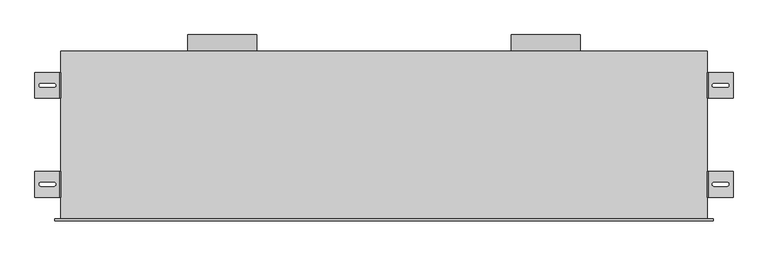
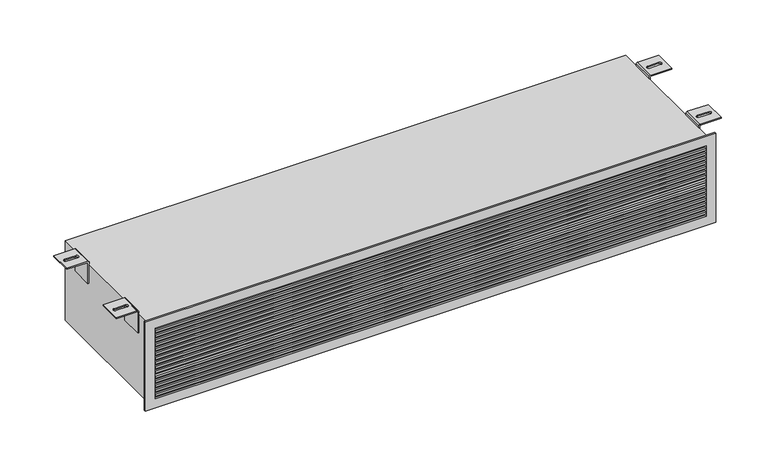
"""IFC4 building model written with IfcOpenShell, lengths in millimetres: air terminal geometry, EOL - Mural - 2 piquages : EOL-M2x160-1500x225-2."""

from ifc_helpers import new_model, si_unit, point, frame, frame_2d, origin, place, context, project, spatial, polyline, circle_curve, ellipse_curve, trimmed, segment, composite_curve, outline, extrude, source, transform, mapped, element, save
from ifc_brep_helpers import plane_surface, cylinder_surface, revolved_surface, extruded_surface, advanced_brep


def air_terminal_16d54a23(model_context):
    return source(origin(), model_context, "Body", "SolidModel", [
        advanced_brep(
        [(754.0013366, 110.0, 121.5), (810.0, 110.0, 121.5), (810.0, 110.0, 118.5), (754.0, 110.0, 118.5), (753.0, 110.0, 117.5), (753.0, 110.0, 58.5), (750.0, 110.0, 58.5), (750.0, 110.0, 117.4986634), (754.0013366, 50.0, 121.5), (750.0, 50.0, 117.4986634), (750.0, 50.0, 58.5), (753.0, 50.0, 58.5), (753.0, 50.0, 117.5), (754.0, 50.0, 118.5), (810.0, 50.0, 118.5), (810.0, 50.0, 121.5), (796.0287952, 75.4804328, 121.5), (766.0287952, 75.4804328, 121.5), (766.0287952, 84.4804328, 121.5), (796.0287952, 84.4804328, 121.5), (766.0287952, 75.4804328, 118.5), (796.0287952, 75.4804328, 118.5), (796.0287952, 84.4804328, 118.5), (766.0287952, 84.4804328, 118.5)],
        [
            (0, 1),
            (1, 2),
            (2, 3),
            (3, 4, circle_curve(frame((754.0, 110.0, 117.5), z_axis=(0.0, -1.0, 0.0), x_axis=(-1.0000000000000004, 0.0, 0.0)), 1.0)),
            (4, 5),
            (5, 6),
            (6, 7),
            (7, 0, circle_curve(frame((754.0013366, 110.0, 117.4986634), z_axis=(0.0, 1.0, 0.0), x_axis=(-1.0000000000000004, 0.0, 0.0)), 4.0013366)),
            (8, 9, circle_curve(frame((754.0013366, 50.0, 117.4986634), z_axis=(0.0, -1.0, 0.0), x_axis=(-1.0000000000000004, 0.0, 0.0)), 4.0013366)),
            (9, 10),
            (10, 11),
            (11, 12),
            (12, 13, circle_curve(frame((754.0, 50.0, 117.5), z_axis=(0.0, 1.0, 0.0), x_axis=(-1.0000000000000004, 0.0, 0.0)), 1.0)),
            (13, 14),
            (14, 15),
            (15, 8),
            (0, 8),
            (15, 1),
            (16, 17),
            (17, 18, circle_curve(frame((766.0287952, 79.9804328, 121.5), z_axis=(0.0, 0.0, -1.0), x_axis=(0.0, -1.0, 0.0)), 4.5)),
            (18, 19),
            (19, 16, circle_curve(frame((796.0287952, 79.9804328, 121.5), z_axis=(0.0, 0.0, -1.0), x_axis=(0.0, -1.0, 0.0)), 4.5)),
            (14, 2),
            (13, 3),
            (20, 21),
            (21, 22, ellipse_curve(frame((796.0287952, 79.9804328, 118.5), z_axis=(0.0, 0.0, 1.0), x_axis=(0.0, -1.0, 0.0)), 4.5, 4.5)),
            (22, 23),
            (23, 20, ellipse_curve(frame((766.0287952, 79.9804328, 118.5), z_axis=(0.0, 0.0, 1.0), x_axis=(0.0, -1.0, 0.0)), 4.5, 4.5)),
            (12, 4),
            (11, 5),
            (10, 6),
            (9, 7),
            (16, 21),
            (20, 17),
            (19, 22),
            (18, 23),
        ],
        [
            plane_surface(frame((810.0, 110.0, 121.5), z_axis=(0.0, 1.0, 0.0), x_axis=(1.0, 0.0, 0.0))),
            plane_surface(frame((810.0, 50.0, 121.5), z_axis=(0.0, -1.0, 0.0), x_axis=(-1.0, 0.0, 0.0))),
            plane_surface(frame((754.0013366, 110.0, 121.5), z_axis=(0.0, 0.0, 1.0), x_axis=(0.0, -1.0, 0.0))),
            plane_surface(frame((810.0, 110.0, 121.5), z_axis=(1.0, 0.0, 0.0), x_axis=(0.0, -1.0, 0.0))),
            plane_surface(frame((810.0, 110.0, 118.5), z_axis=(0.0, 0.0, -1.0), x_axis=(0.0, -1.0, 0.0))),
            revolved_surface(polyline([(753.0, 50.0, 117.5), (753.0, 110.00000000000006, 117.5)]), (754.0, 50.0, 117.5), (0.0, -1.0000000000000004, 0.0)),
            plane_surface(frame((753.0, 110.0, 117.5), z_axis=(1.0, 0.0, 0.0), x_axis=(0.0, -1.0, 0.0))),
            plane_surface(frame((753.0, 110.0, 58.5), z_axis=(0.0, 0.0, -1.0), x_axis=(0.0, -1.0, 0.0))),
            plane_surface(frame((750.0, 110.0, 58.5), z_axis=(-1.0, 0.0, 0.0), x_axis=(0.0, -1.0, 0.0))),
            cylinder_surface(frame((754.0013366, 50.0, 117.4986634), z_axis=(0.0, 1.0000000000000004, 0.0), x_axis=(-1.0000000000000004, 0.0, 0.0)), 4.0013366),
            plane_surface(frame((766.0287952, 75.4804328, 121.5), z_axis=(0.0, 1.0, 0.0), x_axis=(0.0, 0.0, -1.0))),
            extruded_surface(trimmed(ellipse_curve(frame((796.0287952, 79.9804328, 118.5), z_axis=(0.0, 0.0, 1.0), x_axis=(0.0, -1.0, 0.0)), 4.5, 4.5), [point((796.0287952, 75.4804328, 118.5))], [point((796.0287952, 84.4804328, 118.5))], True, "CARTESIAN"), (0.0, 0.0, -3.0), 3.0),
            plane_surface(frame((796.0287952, 84.4804328, 121.5), z_axis=(0.0, -1.0, 0.0), x_axis=(0.0, 0.0, -1.0))),
            extruded_surface(trimmed(ellipse_curve(frame((766.0287952, 79.9804328, 118.5), z_axis=(0.0, 0.0, 1.0), x_axis=(0.0, -1.0, 0.0)), 4.5, 4.5), [point((766.0287952, 84.4804328, 118.5))], [point((766.0287952, 75.4804328, 118.5))], True, "CARTESIAN"), (0.0, 0.0, -3.0), 3.0),
        ],
        [
            (0, [[1, 2, 3, 4, 5, 6, 7, 8]]),
            (1, [[9, 10, 11, 12, 13, 14, 15, 16]]),
            (2, [[-1, 17, -16, 18], [19, 20, 21, 22]]),
            (3, [[-2, -18, -15, 23]]),
            (4, [[-3, -23, -14, 24], [25, 26, 27, 28]]),
            (5, [[-4, -24, -13, 29]]),
            (6, [[-5, -29, -12, 30]]),
            (7, [[-6, -30, -11, 31]]),
            (8, [[-7, -31, -10, 32]]),
            (9, [[-8, -32, -9, -17]]),
            (10, [[33, -25, 34, -19]]),
            (11, [[-33, -22, 35, -26]]),
            (12, [[-35, -21, 36, -27]]),
            (13, [[-34, -28, -36, -20]]),
        ],
    ),
        advanced_brep(
        [(754.0013366, 340.0, 121.5), (810.0, 340.0, 121.5), (810.0, 340.0, 118.5), (754.0, 340.0, 118.5), (753.0, 340.0, 117.5), (753.0, 340.0, 58.5), (750.0, 340.0, 58.5), (750.0, 340.0, 117.4986634), (754.0013366, 280.0, 121.5), (750.0, 280.0, 117.4986634), (750.0, 280.0, 58.5), (753.0, 280.0, 58.5), (753.0, 280.0, 117.5), (754.0, 280.0, 118.5), (810.0, 280.0, 118.5), (810.0, 280.0, 121.5), (796.0287952, 305.4804328, 121.5), (766.0287952, 305.4804328, 121.5), (766.0287952, 314.4804328, 121.5), (796.0287952, 314.4804328, 121.5), (766.0287952, 305.4804328, 118.5), (796.0287952, 305.4804328, 118.5), (796.0287952, 314.4804328, 118.5), (766.0287952, 314.4804328, 118.5)],
        [
            (0, 1),
            (1, 2),
            (2, 3),
            (3, 4, circle_curve(frame((754.0, 340.0, 117.5), z_axis=(0.0, -1.0, 0.0), x_axis=(-1.0, 0.0, 0.0)), 1.0)),
            (4, 5),
            (5, 6),
            (6, 7),
            (7, 0, circle_curve(frame((754.0013366, 340.0, 117.4986634), z_axis=(0.0, 1.0, 0.0), x_axis=(-1.0, 0.0, 0.0)), 4.0013366)),
            (8, 9, circle_curve(frame((754.0013366, 280.0, 117.4986634), z_axis=(0.0, -1.0, 0.0), x_axis=(-1.0, 0.0, 0.0)), 4.0013366)),
            (9, 10),
            (10, 11),
            (11, 12),
            (12, 13, circle_curve(frame((754.0, 280.0, 117.5), z_axis=(0.0, 1.0, 0.0), x_axis=(-1.0, 0.0, 0.0)), 1.0)),
            (13, 14),
            (14, 15),
            (15, 8),
            (0, 8),
            (15, 1),
            (16, 17),
            (17, 18, circle_curve(frame((766.0287952, 309.9804328, 121.5), z_axis=(0.0, 0.0, -1.0), x_axis=(0.0, -1.0, 0.0)), 4.5)),
            (18, 19),
            (19, 16, circle_curve(frame((796.0287952, 309.9804328, 121.5), z_axis=(0.0, 0.0, -1.0), x_axis=(0.0, -1.0, 0.0)), 4.5)),
            (14, 2),
            (13, 3),
            (20, 21),
            (21, 22, ellipse_curve(frame((796.0287952, 309.9804328, 118.5), z_axis=(0.0, 0.0, 1.0), x_axis=(0.0, -1.0, 0.0)), 4.5, 4.5)),
            (22, 23),
            (23, 20, ellipse_curve(frame((766.0287952, 309.9804328, 118.5), z_axis=(0.0, 0.0, 1.0), x_axis=(0.0, -1.0, 0.0)), 4.5, 4.5)),
            (12, 4),
            (11, 5),
            (10, 6),
            (9, 7),
            (16, 21),
            (20, 17),
            (19, 22),
            (18, 23),
        ],
        [
            plane_surface(frame((810.0, 340.0, 121.5), z_axis=(0.0, 1.0, 0.0), x_axis=(1.0, 0.0, 0.0))),
            plane_surface(frame((810.0, 280.0, 121.5), z_axis=(0.0, -1.0, 0.0), x_axis=(-1.0, 0.0, 0.0))),
            plane_surface(frame((754.0013366, 340.0, 121.5), z_axis=(0.0, 0.0, 1.0), x_axis=(0.0, -1.0, 0.0))),
            plane_surface(frame((810.0, 340.0, 121.5), z_axis=(1.0, 0.0, 0.0), x_axis=(0.0, -1.0, 0.0))),
            plane_surface(frame((810.0, 340.0, 118.5), z_axis=(0.0, 0.0, -1.0), x_axis=(0.0, -1.0, 0.0))),
            revolved_surface(polyline([(753.0, 280.0, 117.5), (753.0, 340.0, 117.5)]), (754.0, 280.0, 117.5), (0.0, -1.0, 0.0)),
            plane_surface(frame((753.0, 340.0, 117.5), z_axis=(1.0, 0.0, 0.0), x_axis=(0.0, -1.0, 0.0))),
            plane_surface(frame((753.0, 340.0, 58.5), z_axis=(0.0, 0.0, -1.0), x_axis=(0.0, -1.0, 0.0))),
            plane_surface(frame((750.0, 340.0, 58.5), z_axis=(-1.0, 0.0, 0.0), x_axis=(0.0, -1.0, 0.0))),
            cylinder_surface(frame((754.0013366, 280.0, 117.4986634), z_axis=(0.0, 1.0, 0.0), x_axis=(-1.0, 0.0, 0.0)), 4.0013366),
            plane_surface(frame((766.0287952, 305.4804328, 121.5), z_axis=(0.0, 1.0, 0.0), x_axis=(0.0, 0.0, -1.0))),
            extruded_surface(trimmed(ellipse_curve(frame((796.0287952, 309.9804328, 118.5), z_axis=(0.0, 0.0, 1.0), x_axis=(0.0, -1.0, 0.0)), 4.5, 4.5), [point((796.0287952, 305.4804328, 118.5))], [point((796.0287952, 314.4804328, 118.5))], True, "CARTESIAN"), (0.0, 0.0, -3.0), 3.0),
            plane_surface(frame((796.0287952, 314.4804328, 121.5), z_axis=(0.0, -1.0, 0.0), x_axis=(0.0, 0.0, -1.0))),
            extruded_surface(trimmed(ellipse_curve(frame((766.0287952, 309.9804328, 118.5), z_axis=(0.0, 0.0, 1.0), x_axis=(0.0, -1.0, 0.0)), 4.5, 4.5), [point((766.0287952, 314.4804328, 118.5))], [point((766.0287952, 305.4804328, 118.5))], True, "CARTESIAN"), (0.0, 0.0, -3.0), 3.0),
        ],
        [
            (0, [[1, 2, 3, 4, 5, 6, 7, 8]]),
            (1, [[9, 10, 11, 12, 13, 14, 15, 16]]),
            (2, [[-1, 17, -16, 18], [19, 20, 21, 22]]),
            (3, [[-2, -18, -15, 23]]),
            (4, [[-3, -23, -14, 24], [25, 26, 27, 28]]),
            (5, [[-4, -24, -13, 29]]),
            (6, [[-5, -29, -12, 30]]),
            (7, [[-6, -30, -11, 31]]),
            (8, [[-7, -31, -10, 32]]),
            (9, [[-8, -32, -9, -17]]),
            (10, [[33, -25, 34, -19]]),
            (11, [[-33, -22, 35, -26]]),
            (12, [[-35, -21, 36, -27]]),
            (13, [[-34, -28, -36, -20]]),
        ],
    ),
        advanced_brep(
        [(-754.0013366, 50.0, 121.5), (-810.0, 50.0, 121.5), (-810.0, 50.0, 118.5), (-754.0, 50.0, 118.5), (-753.0, 50.0, 117.5), (-753.0, 50.0, 58.5), (-750.0, 50.0, 58.5), (-750.0, 50.0, 117.4986634), (-754.0013366, 110.0, 121.5), (-750.0, 110.0, 117.4986634), (-750.0, 110.0, 58.5), (-753.0, 110.0, 58.5), (-753.0, 110.0, 117.5), (-754.0, 110.0, 118.5), (-810.0, 110.0, 118.5), (-810.0, 110.0, 121.5), (-796.0287952, 84.5195672, 121.5), (-766.0287952, 84.5195672, 121.5), (-766.0287952, 75.5195672, 121.5), (-796.0287952, 75.5195672, 121.5), (-766.0287952, 84.5195672, 118.5), (-796.0287952, 84.5195672, 118.5), (-796.0287952, 75.5195672, 118.5), (-766.0287952, 75.5195672, 118.5)],
        [
            (0, 1),
            (1, 2),
            (2, 3),
            (3, 4, circle_curve(frame((-754.0, 50.0, 117.5), z_axis=(0.0, 1.0, 0.0), x_axis=(1.0, 0.0, 0.0)), 1.0)),
            (4, 5),
            (5, 6),
            (6, 7),
            (7, 0, circle_curve(frame((-754.0013366, 50.0, 117.4986634), z_axis=(0.0, -1.0, 0.0), x_axis=(1.0, 0.0, 0.0)), 4.0013366)),
            (8, 9, circle_curve(frame((-754.0013366, 110.0, 117.4986634), z_axis=(0.0, 1.0, 0.0), x_axis=(1.0, 0.0, 0.0)), 4.0013366)),
            (9, 10),
            (10, 11),
            (11, 12),
            (12, 13, circle_curve(frame((-754.0, 110.0, 117.5), z_axis=(0.0, -1.0, 0.0), x_axis=(1.0, 0.0, 0.0)), 1.0)),
            (13, 14),
            (14, 15),
            (15, 8),
            (0, 8),
            (15, 1),
            (16, 17),
            (17, 18, circle_curve(frame((-766.0287952, 80.0195672, 121.5), z_axis=(0.0, 0.0, -1.0), x_axis=(0.0, 1.0, 0.0)), 4.5)),
            (18, 19),
            (19, 16, circle_curve(frame((-796.0287952, 80.0195672, 121.5), z_axis=(0.0, 0.0, -1.0), x_axis=(0.0, 1.0, 0.0)), 4.5)),
            (14, 2),
            (13, 3),
            (20, 21),
            (21, 22, ellipse_curve(frame((-796.0287952, 80.0195672, 118.5), z_axis=(0.0, 0.0, 1.0), x_axis=(0.0, 1.0, 0.0)), 4.5, 4.5)),
            (22, 23),
            (23, 20, ellipse_curve(frame((-766.0287952, 80.0195672, 118.5), z_axis=(0.0, 0.0, 1.0), x_axis=(0.0, 1.0, 0.0)), 4.5, 4.5)),
            (12, 4),
            (11, 5),
            (10, 6),
            (9, 7),
            (16, 21),
            (20, 17),
            (19, 22),
            (18, 23),
        ],
        [
            plane_surface(frame((-810.0, 50.0, 121.5), z_axis=(0.0, -1.0, 0.0), x_axis=(-1.0, 0.0, 0.0))),
            plane_surface(frame((-810.0, 110.0, 121.5), z_axis=(0.0, 1.0, 0.0), x_axis=(1.0, 0.0, 0.0))),
            plane_surface(frame((-754.0013366, 50.0, 121.5), z_axis=(0.0, 0.0, 1.0), x_axis=(0.0, 1.0, 0.0))),
            plane_surface(frame((-810.0, 50.0, 121.5), z_axis=(-1.0, 0.0, 0.0), x_axis=(0.0, 1.0, 0.0))),
            plane_surface(frame((-810.0, 50.0, 118.5), z_axis=(0.0, 0.0, -1.0), x_axis=(0.0, 1.0, 0.0))),
            revolved_surface(polyline([(-753.0, 110.0, 117.5), (-753.0, 50.0, 117.5)]), (-754.0, 110.0, 117.5), (0.0, 1.0, 0.0)),
            plane_surface(frame((-753.0, 50.0, 117.5), z_axis=(-1.0, 0.0, 0.0), x_axis=(0.0, 1.0, 0.0))),
            plane_surface(frame((-753.0, 50.0, 58.5), z_axis=(0.0, 0.0, -1.0), x_axis=(0.0, 1.0, 0.0))),
            plane_surface(frame((-750.0, 50.0, 58.5), z_axis=(1.0, 0.0, 0.0), x_axis=(0.0, 1.0, 0.0))),
            cylinder_surface(frame((-754.0013366, 110.0, 117.4986634), z_axis=(0.0, -1.0, 0.0), x_axis=(1.0, 0.0, 0.0)), 4.0013366),
            plane_surface(frame((-766.0287952, 84.5195672, 121.5), z_axis=(0.0, -1.0, 0.0), x_axis=(0.0, 0.0, -1.0))),
            extruded_surface(trimmed(ellipse_curve(frame((-796.0287952, 80.0195672, 118.5), z_axis=(0.0, 0.0, 1.0), x_axis=(0.0, 1.0, 0.0)), 4.5, 4.5), [point((-796.0287952, 84.5195672, 118.5))], [point((-796.0287952, 75.5195672, 118.5))], True, "CARTESIAN"), (0.0, 0.0, -3.0), 3.0),
            plane_surface(frame((-796.0287952, 75.5195672, 121.5), z_axis=(0.0, 1.0, 0.0), x_axis=(0.0, 0.0, -1.0))),
            extruded_surface(trimmed(ellipse_curve(frame((-766.0287952, 80.0195672, 118.5), z_axis=(0.0, 0.0, 1.0), x_axis=(0.0, 1.0, 0.0)), 4.5, 4.5), [point((-766.0287952, 75.5195672, 118.5))], [point((-766.0287952, 84.5195672, 118.5))], True, "CARTESIAN"), (0.0, 0.0, -3.0), 3.0),
        ],
        [
            (0, [[1, 2, 3, 4, 5, 6, 7, 8]]),
            (1, [[9, 10, 11, 12, 13, 14, 15, 16]]),
            (2, [[-1, 17, -16, 18], [19, 20, 21, 22]]),
            (3, [[-2, -18, -15, 23]]),
            (4, [[-3, -23, -14, 24], [25, 26, 27, 28]]),
            (5, [[-4, -24, -13, 29]]),
            (6, [[-5, -29, -12, 30]]),
            (7, [[-6, -30, -11, 31]]),
            (8, [[-7, -31, -10, 32]]),
            (9, [[-8, -32, -9, -17]]),
            (10, [[33, -25, 34, -19]]),
            (11, [[-33, -22, 35, -26]]),
            (12, [[-35, -21, 36, -27]]),
            (13, [[-34, -28, -36, -20]]),
        ],
    ),
        advanced_brep(
        [(-754.0013366, 280.0, 121.5), (-810.0, 280.0, 121.5), (-810.0, 280.0, 118.5), (-754.0, 280.0, 118.5), (-753.0, 280.0, 117.5), (-753.0, 280.0, 58.5), (-750.0, 280.0, 58.5), (-750.0, 280.0, 117.4986634), (-754.0013366, 340.0, 121.5), (-750.0, 340.0, 117.4986634), (-750.0, 340.0, 58.5), (-753.0, 340.0, 58.5), (-753.0, 340.0, 117.5), (-754.0, 340.0, 118.5), (-810.0, 340.0, 118.5), (-810.0, 340.0, 121.5), (-796.0287952, 314.5195672, 121.5), (-766.0287952, 314.5195672, 121.5), (-766.0287952, 305.5195672, 121.5), (-796.0287952, 305.5195672, 121.5), (-766.0287952, 314.5195672, 118.5), (-796.0287952, 314.5195672, 118.5), (-796.0287952, 305.5195672, 118.5), (-766.0287952, 305.5195672, 118.5)],
        [
            (0, 1),
            (1, 2),
            (2, 3),
            (3, 4, circle_curve(frame((-754.0, 280.0, 117.5), z_axis=(0.0, 1.0, 0.0), x_axis=(1.0, 0.0, 0.0)), 1.0)),
            (4, 5),
            (5, 6),
            (6, 7),
            (7, 0, circle_curve(frame((-754.0013366, 280.0, 117.4986634), z_axis=(0.0, -1.0, 0.0), x_axis=(1.0, 0.0, 0.0)), 4.0013366)),
            (8, 9, circle_curve(frame((-754.0013366, 340.0, 117.4986634), z_axis=(0.0, 1.0, 0.0), x_axis=(1.0, 0.0, 0.0)), 4.0013366)),
            (9, 10),
            (10, 11),
            (11, 12),
            (12, 13, circle_curve(frame((-754.0, 340.0, 117.5), z_axis=(0.0, -1.0, 0.0), x_axis=(1.0, 0.0, 0.0)), 1.0)),
            (13, 14),
            (14, 15),
            (15, 8),
            (0, 8),
            (15, 1),
            (16, 17),
            (17, 18, circle_curve(frame((-766.0287952, 310.0195672, 121.5), z_axis=(0.0, 0.0, -1.0), x_axis=(0.0, 1.0, 0.0)), 4.5)),
            (18, 19),
            (19, 16, circle_curve(frame((-796.0287952, 310.0195672, 121.5), z_axis=(0.0, 0.0, -1.0), x_axis=(0.0, 1.0, 0.0)), 4.5)),
            (14, 2),
            (13, 3),
            (20, 21),
            (21, 22, ellipse_curve(frame((-796.0287952, 310.0195672, 118.5), z_axis=(0.0, 0.0, 1.0), x_axis=(0.0, 1.0, 0.0)), 4.5, 4.5)),
            (22, 23),
            (23, 20, ellipse_curve(frame((-766.0287952, 310.0195672, 118.5), z_axis=(0.0, 0.0, 1.0), x_axis=(0.0, 1.0, 0.0)), 4.5, 4.5)),
            (12, 4),
            (11, 5),
            (10, 6),
            (9, 7),
            (16, 21),
            (20, 17),
            (19, 22),
            (18, 23),
        ],
        [
            plane_surface(frame((-810.0, 280.0, 121.5), z_axis=(0.0, -1.0, 0.0), x_axis=(-1.0, 0.0, 0.0))),
            plane_surface(frame((-810.0, 340.0, 121.5), z_axis=(0.0, 1.0, 0.0), x_axis=(1.0, 0.0, 0.0))),
            plane_surface(frame((-754.0013366, 280.0, 121.5), z_axis=(0.0, 0.0, 1.0), x_axis=(0.0, 1.0, 0.0))),
            plane_surface(frame((-810.0, 280.0, 121.5), z_axis=(-1.0, 0.0, 0.0), x_axis=(0.0, 1.0, 0.0))),
            plane_surface(frame((-810.0, 280.0, 118.5), z_axis=(0.0, 0.0, -1.0), x_axis=(0.0, 1.0, 0.0))),
            revolved_surface(polyline([(-753.0, 340.0, 117.5), (-753.0, 280.0, 117.5)]), (-754.0, 340.0, 117.5), (0.0, 1.0, 0.0)),
            plane_surface(frame((-753.0, 280.0, 117.5), z_axis=(-1.0, 0.0, 0.0), x_axis=(0.0, 1.0, 0.0))),
            plane_surface(frame((-753.0, 280.0, 58.5), z_axis=(0.0, 0.0, -1.0), x_axis=(0.0, 1.0, 0.0))),
            plane_surface(frame((-750.0, 280.0, 58.5), z_axis=(1.0, 0.0, 0.0), x_axis=(0.0, 1.0, 0.0))),
            cylinder_surface(frame((-754.0013366, 340.0, 117.4986634), z_axis=(0.0, -1.0, 0.0), x_axis=(1.0, 0.0, 0.0)), 4.0013366),
            plane_surface(frame((-766.0287952, 314.5195672, 121.5), z_axis=(0.0, -1.0, 0.0), x_axis=(0.0, 0.0, -1.0))),
            extruded_surface(trimmed(ellipse_curve(frame((-796.0287952, 310.0195672, 118.5), z_axis=(0.0, 0.0, 1.0), x_axis=(0.0, 1.0, 0.0)), 4.5, 4.5), [point((-796.0287952, 314.5195672, 118.5))], [point((-796.0287952, 305.5195672, 118.5))], True, "CARTESIAN"), (0.0, 0.0, -3.0), 3.0),
            plane_surface(frame((-796.0287952, 305.5195672, 121.5), z_axis=(0.0, 1.0, 0.0), x_axis=(0.0, 0.0, -1.0))),
            extruded_surface(trimmed(ellipse_curve(frame((-766.0287952, 310.0195672, 118.5), z_axis=(0.0, 0.0, 1.0), x_axis=(0.0, 1.0, 0.0)), 4.5, 4.5), [point((-766.0287952, 305.5195672, 118.5))], [point((-766.0287952, 314.5195672, 118.5))], True, "CARTESIAN"), (0.0, 0.0, -3.0), 3.0),
        ],
        [
            (0, [[1, 2, 3, 4, 5, 6, 7, 8]]),
            (1, [[9, 10, 11, 12, 13, 14, 15, 16]]),
            (2, [[-1, 17, -16, 18], [19, 20, 21, 22]]),
            (3, [[-2, -18, -15, 23]]),
            (4, [[-3, -23, -14, 24], [25, 26, 27, 28]]),
            (5, [[-4, -24, -13, 29]]),
            (6, [[-5, -29, -12, 30]]),
            (7, [[-6, -30, -11, 31]]),
            (8, [[-7, -31, -10, 32]]),
            (9, [[-8, -32, -9, -17]]),
            (10, [[33, -25, 34, -19]]),
            (11, [[-33, -22, 35, -26]]),
            (12, [[-35, -21, 36, -27]]),
            (13, [[-34, -28, -36, -20]]),
        ],
    ),
        extrude(outline(composite_curve([segment(trimmed(circle_curve(frame_2d((0.0, 375.0)), 80.0), [point((0.0, 295.0))], [point((0.0, 455.0))], False, "CARTESIAN"), True, "CONTINUOUS"), segment(trimmed(circle_curve(frame_2d((0.0, 375.0)), 80.0), [point((0.0, 455.0))], [point((0.0, 295.0))], False, "CARTESIAN"), True, "CONTINUOUS")], self_intersect=False), holes=[composite_curve([segment(trimmed(circle_curve(frame_2d((0.0, 375.0)), 79.0), [point((0.0, 454.0))], [point((0.0, 296.0))], True, "CARTESIAN"), True, "CONTINUOUS"), segment(trimmed(circle_curve(frame_2d((0.0, 375.0)), 79.0), [point((0.0, 296.0))], [point((0.0, 454.0))], True, "CARTESIAN"), True, "CONTINUOUS")], self_intersect=False)]), frame((0.0, 390.0, 0.0), z_axis=(0.0, 1.0, 0.0), x_axis=(0.0, 0.0, 1.0)), (0.0, 0.0, 1.0), 37.5),
        extrude(outline(composite_curve([segment(trimmed(circle_curve(frame_2d((0.0, -375.0)), 80.0), [point((0.0, -455.0))], [point((0.0, -295.0))], False, "CARTESIAN"), True, "CONTINUOUS"), segment(trimmed(circle_curve(frame_2d((0.0, -375.0)), 80.0), [point((0.0, -295.0))], [point((0.0, -455.0))], False, "CARTESIAN"), True, "CONTINUOUS")], self_intersect=False), holes=[composite_curve([segment(trimmed(circle_curve(frame_2d((0.0, -375.0)), 79.0), [point((0.0, -296.0))], [point((0.0, -454.0))], True, "CARTESIAN"), True, "CONTINUOUS"), segment(trimmed(circle_curve(frame_2d((0.0, -375.0)), 79.0), [point((0.0, -454.0))], [point((0.0, -296.0))], True, "CARTESIAN"), True, "CONTINUOUS")], self_intersect=False)]), frame((0.0, 390.0, 0.0), z_axis=(0.0, 1.0, 0.0), x_axis=(0.0, 0.0, 1.0)), (0.0, 0.0, 1.0), 37.5),
        extrude(outline(polyline([(737.5, 0.0), (737.5, -5.0), (-737.5, -5.0), (-737.5, 0.0), (737.5, 0.0)])), frame((0.0, 0.0, 87.15), z_axis=(0.0, 0.0, 1.0), x_axis=(1.0, 0.0, 0.0)), (0.0, 0.0, 1.0), 5.6),
        extrude(outline(polyline([(737.5, 0.0), (737.5, -5.0), (-737.5, -5.0), (-737.5, 0.0), (737.5, 0.0)])), frame((0.0, 0.0, 74.3), z_axis=(0.0, 0.0, 1.0), x_axis=(1.0, 0.0, 0.0)), (0.0, 0.0, 1.0), 5.6),
        extrude(outline(polyline([(737.5, 0.0), (737.5, -5.0), (-737.5, -5.0), (-737.5, 0.0), (737.5, 0.0)])), frame((0.0, 0.0, 61.45), z_axis=(0.0, 0.0, 1.0), x_axis=(1.0, 0.0, 0.0)), (0.0, 0.0, 1.0), 5.6),
        extrude(outline(polyline([(737.5, 0.0), (737.5, -5.0), (-737.5, -5.0), (-737.5, 0.0), (737.5, 0.0)])), frame((0.0, 0.0, 48.6), z_axis=(0.0, 0.0, 1.0), x_axis=(1.0, 0.0, 0.0)), (0.0, 0.0, 1.0), 5.6),
        extrude(outline(polyline([(737.5, 0.0), (737.5, -5.0), (-737.5, -5.0), (-737.5, 0.0), (737.5, 0.0)])), frame((0.0, 0.0, 35.75), z_axis=(0.0, 0.0, 1.0), x_axis=(1.0, 0.0, 0.0)), (0.0, 0.0, 1.0), 5.6),
        extrude(outline(polyline([(737.5, 0.0), (737.5, -5.0), (-737.5, -5.0), (-737.5, 0.0), (737.5, 0.0)])), frame((0.0, 0.0, 22.9), z_axis=(0.0, 0.0, 1.0), x_axis=(1.0, 0.0, 0.0)), (0.0, 0.0, 1.0), 5.6),
        extrude(outline(polyline([(737.5, 0.0), (737.5, -5.0), (-737.5, -5.0), (-737.5, 0.0), (737.5, 0.0)])), frame((0.0, 0.0, 10.05), z_axis=(0.0, 0.0, 1.0), x_axis=(1.0, 0.0, 0.0)), (0.0, 0.0, 1.0), 5.6),
        extrude(outline(polyline([(737.5, 0.0), (737.5, -5.0), (-737.5, -5.0), (-737.5, 0.0), (737.5, 0.0)])), frame((0.0, 0.0, -2.8), z_axis=(0.0, 0.0, 1.0), x_axis=(1.0, 0.0, 0.0)), (0.0, 0.0, 1.0), 5.6),
        extrude(outline(polyline([(737.5, 0.0), (737.5, -5.0), (-737.5, -5.0), (-737.5, 0.0), (737.5, 0.0)])), frame((0.0, 0.0, -15.65), z_axis=(0.0, 0.0, 1.0), x_axis=(1.0, 0.0, 0.0)), (0.0, 0.0, 1.0), 5.6),
        extrude(outline(polyline([(737.5, 0.0), (737.5, -5.0), (-737.5, -5.0), (-737.5, 0.0), (737.5, 0.0)])), frame((0.0, 0.0, -28.5), z_axis=(0.0, 0.0, 1.0), x_axis=(1.0, 0.0, 0.0)), (0.0, 0.0, 1.0), 5.6),
        extrude(outline(polyline([(737.5, 0.0), (737.5, -5.0), (-737.5, -5.0), (-737.5, 0.0), (737.5, 0.0)])), frame((0.0, 0.0, -41.35), z_axis=(0.0, 0.0, 1.0), x_axis=(1.0, 0.0, 0.0)), (0.0, 0.0, 1.0), 5.6),
        extrude(outline(polyline([(737.5, 0.0), (737.5, -5.0), (-737.5, -5.0), (-737.5, 0.0), (737.5, 0.0)])), frame((0.0, 0.0, -54.2), z_axis=(0.0, 0.0, 1.0), x_axis=(1.0, 0.0, 0.0)), (0.0, 0.0, 1.0), 5.6),
        extrude(outline(polyline([(737.5, 0.0), (737.5, -5.0), (-737.5, -5.0), (-737.5, 0.0), (737.5, 0.0)])), frame((0.0, 0.0, -67.05), z_axis=(0.0, 0.0, 1.0), x_axis=(1.0, 0.0, 0.0)), (0.0, 0.0, 1.0), 5.6),
        extrude(outline(polyline([(737.5, 0.0), (737.5, -5.0), (-737.5, -5.0), (-737.5, 0.0), (737.5, 0.0)])), frame((0.0, 0.0, -79.9), z_axis=(0.0, 0.0, 1.0), x_axis=(1.0, 0.0, 0.0)), (0.0, 0.0, 1.0), 5.6),
        extrude(outline(polyline([(737.5, 0.0), (737.5, -5.0), (-737.5, -5.0), (-737.5, 0.0), (737.5, 0.0)])), frame((0.0, 0.0, -92.75), z_axis=(0.0, 0.0, 1.0), x_axis=(1.0, 0.0, 0.0)), (0.0, 0.0, 1.0), 5.6),
        extrude(outline(polyline([(126.0, 764.0), (126.0, -764.0), (-126.0, -764.0), (-126.0, 764.0), (126.0, 764.0)]), holes=[polyline([(100.0, 737.5), (-100.0, 737.5), (-100.0, -737.5), (100.0, -737.5), (100.0, 737.5)])]), frame((0.0, -5.0, 0.0), z_axis=(0.0, 1.0, 0.0), x_axis=(0.0, 0.0, 1.0)), (0.0, 0.0, 1.0), 5.0),
        advanced_brep(
        [(750.0, 390.0, 112.5), (-750.0, 390.0, 112.5), (-750.0, 0.0, 112.5), (750.0, 0.0, 112.5), (750.0, 390.0, -112.5), (750.0, 0.0, -112.5), (-750.0, 0.0, -112.5), (-750.0, 390.0, -112.5), (296.0, 390.0, 0.0), (454.0, 390.0, 0.0), (-454.0, 390.0, 0.0), (-296.0, 390.0, 0.0), (-745.0, 0.0, 107.5), (745.0, 0.0, 107.5), (745.0, 0.0, -107.5), (-745.0, 0.0, -107.5), (745.0, 385.0, 107.5), (-745.0, 385.0, 107.5), (745.0, 385.0, -107.5), (-745.0, 385.0, -107.5), (454.0, 385.0, 0.0), (296.0, 385.0, 0.0), (-296.0, 385.0, 0.0), (-454.0, 385.0, 0.0)],
        [
            (0, 1),
            (1, 2),
            (2, 3),
            (3, 0),
            (4, 5),
            (5, 6),
            (6, 7),
            (7, 4),
            (0, 4),
            (7, 1),
            (8, 9, circle_curve(frame((375.0, 390.0, 0.0), z_axis=(0.0, -1.0, 0.0), x_axis=(1.0, 0.0, 0.0)), 79.0)),
            (9, 8, circle_curve(frame((375.0, 390.0, 0.0), z_axis=(0.0, -1.0, 0.0), x_axis=(1.0, 0.0, 0.0)), 79.0)),
            (10, 11, circle_curve(frame((-375.0, 390.0, 0.0), z_axis=(0.0, -1.0, 0.0), x_axis=(1.0, 0.0, 0.0)), 79.0)),
            (11, 10, circle_curve(frame((-375.0, 390.0, 0.0), z_axis=(0.0, -1.0, 0.0), x_axis=(1.0, 0.0, 0.0)), 79.0)),
            (6, 2),
            (5, 3),
            (12, 13),
            (13, 14),
            (14, 15),
            (15, 12),
            (16, 13),
            (12, 17),
            (17, 16),
            (18, 19),
            (19, 15),
            (14, 18),
            (17, 19),
            (18, 16),
            (20, 21, circle_curve(frame((375.0, 385.0, 0.0), z_axis=(0.0, 1.0, 0.0), x_axis=(1.0, 0.0, 0.0)), 79.0)),
            (21, 20, circle_curve(frame((375.0, 385.0, 0.0), z_axis=(0.0, 1.0, 0.0), x_axis=(1.0, 0.0, 0.0)), 79.0)),
            (22, 23, circle_curve(frame((-375.0, 385.0, 0.0), z_axis=(0.0, 1.0, 0.0), x_axis=(1.0, 0.0, 0.0)), 79.0)),
            (23, 22, circle_curve(frame((-375.0, 385.0, 0.0), z_axis=(0.0, 1.0, 0.0), x_axis=(1.0, 0.0, 0.0)), 79.0)),
            (8, 21),
            (20, 9),
            (10, 23),
            (22, 11),
        ],
        [
            plane_surface(frame((-750.0, 390.0, 112.5), z_axis=(0.0, 0.0, 1.0), x_axis=(-1.0, 0.0, 0.0))),
            plane_surface(frame((-750.0, 390.0, -112.5), z_axis=(0.0, 0.0, -1.0), x_axis=(1.0, 0.0, 0.0))),
            plane_surface(frame((750.0, 390.0, 112.5), z_axis=(0.0, 1.0, 0.0), x_axis=(0.0, 0.0, -1.0))),
            plane_surface(frame((-750.0, 390.0, 112.5), z_axis=(-1.0, 0.0, 0.0), x_axis=(0.0, 0.0, -1.0))),
            plane_surface(frame((-750.0, 0.0, 112.5), z_axis=(0.0, -1.0, 0.0), x_axis=(0.0, 0.0, -1.0))),
            plane_surface(frame((750.0, 0.0, 112.5), z_axis=(1.0, 0.0, 0.0), x_axis=(0.0, 0.0, -1.0))),
            plane_surface(frame((-745.0, 385.0, 107.5), z_axis=(0.0, 0.0, -1.0), x_axis=(-1.0, 0.0, 0.0))),
            plane_surface(frame((-745.0, 385.0, -107.5), z_axis=(0.0, 0.0, 1.0), x_axis=(1.0, 0.0, 0.0))),
            plane_surface(frame((745.0, 385.0, 107.5), z_axis=(0.0, -1.0, 0.0), x_axis=(0.0, 0.0, -1.0))),
            plane_surface(frame((-745.0, 385.0, 107.5), z_axis=(1.0, 0.0, 0.0), x_axis=(0.0, 0.0, -1.0))),
            plane_surface(frame((745.0, 0.0, 107.5), z_axis=(-1.0, 0.0, 0.0), x_axis=(0.0, 0.0, -1.0))),
            revolved_surface(polyline([(454.0, 385.0, 0.0), (454.0, 390.0, 0.0)]), (375.0, 427.5, 0.0), (0.0, -1.0, 0.0)),
            revolved_surface(polyline([(-296.0, 385.0, 0.0), (-296.0, 390.0, 0.0)]), (-375.0, 0.0, 0.0), (0.0, -1.0, 0.0)),
        ],
        [
            (0, [[1, 2, 3, 4]]),
            (1, [[5, 6, 7, 8]]),
            (2, [[-1, 9, -8, 10], [11, 12], [13, 14]]),
            (3, [[-2, -10, -7, 15]]),
            (4, [[-3, -15, -6, 16], [17, 18, 19, 20]]),
            (5, [[-4, -16, -5, -9]]),
            (6, [[21, -17, 22, 23]]),
            (7, [[24, 25, -19, 26]]),
            (8, [[-23, 27, -24, 28], [29, 30], [31, 32]]),
            (9, [[-22, -20, -25, -27]]),
            (10, [[-21, -28, -26, -18]]),
            (11, [[33, -29, 34, -11]]),
            (11, [[-33, -12, -34, -30]]),
            (12, [[35, -31, 36, -13]]),
            (12, [[-35, -14, -36, -32]]),
        ],
    ),
    ])


if __name__ == "__main__":
    model = new_model("IFC4")
    model_context = context("Model", 3, world=origin())
    ifc_project = project(units=[si_unit("LENGTHUNIT", "METRE", prefix="MILLI")], contexts=[model_context])
    site = spatial("IfcSite", under=ifc_project)
    building = spatial("IfcBuilding", under=site)
    placement = place(None, origin())
    air_terminal_shape = air_terminal_16d54a23(model_context)
    element("IfcAirTerminal", 1, ObjectType="EOL - Mural - 2 piquages : EOL-M2x160-1500x225-2", at=placement, inside=building, context=model_context, shape_type="MappedRepresentation", body=[
        mapped(air_terminal_shape, transform((0.0, 0.0, 0.0), x_axis=(1.0, 0.0, 0.0), y_axis=(0.0, 1.0, 0.0), z_axis=(0.0, 0.0, 1.0))),
    ])
    save(model, "model.ifc")
